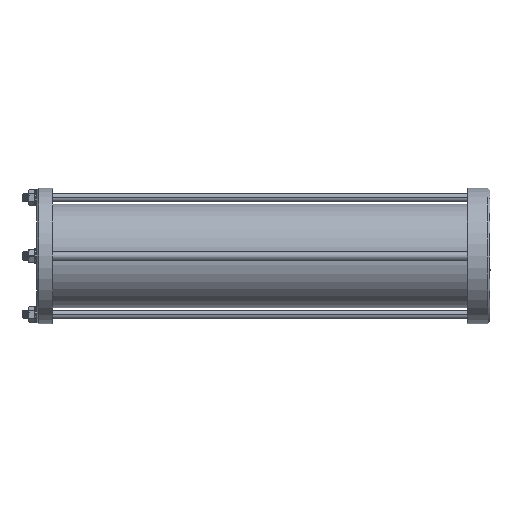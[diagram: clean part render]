
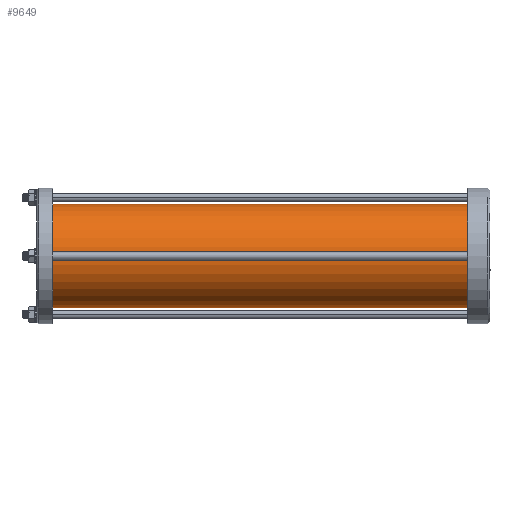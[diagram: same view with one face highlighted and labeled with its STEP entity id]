
A CAD part, left-side view. The second image highlights one B-rep face of the part: STEP entity #9649.
In plain terms, the highlighted cylindrical face has radius 38.5 mm (diameter 77 mm), a partial arc.
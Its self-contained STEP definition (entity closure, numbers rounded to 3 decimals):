
#5210 = FACE_OUTER_BOUND ( 'NONE', #59440, .T. ) ;
#6115 = CARTESIAN_POINT ( 'NONE',  ( 40.045, 341.458, 140.117 ) ) ;
#6941 = VERTEX_POINT ( 'NONE', #66312 ) ;
#9649 = ADVANCED_FACE ( 'NONE', ( #5210 ), #40937, .T. ) ;
#11994 = ORIENTED_EDGE ( 'NONE', *, *, #17799, .T. ) ;
#12818 = DIRECTION ( 'NONE',  ( 0., 1., 0. ) ) ;
#13337 = DIRECTION ( 'NONE',  ( 0., 0., 1. ) ) ;
#16139 = EDGE_CURVE ( 'NONE', #99099, #6941, #87804, .T. ) ;
#16773 = VERTEX_POINT ( 'NONE', #66929 ) ;
#17002 = EDGE_CURVE ( 'NONE', #16773, #6941, #111534, .T. ) ;
#17272 = CARTESIAN_POINT ( 'NONE',  ( 40.045, 341.458, 63.117 ) ) ;
#17799 = EDGE_CURVE ( 'NONE', #51573, #16773, #28661, .T. ) ;
#20135 = CARTESIAN_POINT ( 'NONE',  ( 40.045, 341.458, 101.617 ) ) ;
#28661 = LINE ( 'NONE', #63305, #70477 ) ;
#31827 = CIRCLE ( 'NONE', #95541, 38.5 ) ;
#36713 = AXIS2_PLACEMENT_3D ( 'NONE', #91952, #12818, #56775 ) ;
#40937 = CYLINDRICAL_SURFACE ( 'NONE', #48294, 38.5 ) ;
#45129 = DIRECTION ( 'NONE',  ( 0., -1., 0. ) ) ;
#48294 = AXIS2_PLACEMENT_3D ( 'NONE', #20135, #90525, #106920 ) ;
#51476 = VECTOR ( 'NONE', #86083, 1000. ) ;
#51573 = VERTEX_POINT ( 'NONE', #17272 ) ;
#56775 = DIRECTION ( 'NONE',  ( 0., 0., 1. ) ) ;
#59440 = EDGE_LOOP ( 'NONE', ( #110888, #81479, #11994, #78962 ) ) ;
#63305 = CARTESIAN_POINT ( 'NONE',  ( 40.045, 341.458, 63.117 ) ) ;
#66312 = CARTESIAN_POINT ( 'NONE',  ( 40.045, 23.458, 140.117 ) ) ;
#66929 = CARTESIAN_POINT ( 'NONE',  ( 40.045, 23.458, 63.117 ) ) ;
#70477 = VECTOR ( 'NONE', #45129, 1000. ) ;
#73770 = DIRECTION ( 'NONE',  ( 0., 1., 0. ) ) ;
#74931 = CARTESIAN_POINT ( 'NONE',  ( 40.045, 341.458, 101.617 ) ) ;
#78962 = ORIENTED_EDGE ( 'NONE', *, *, #17002, .T. ) ;
#81479 = ORIENTED_EDGE ( 'NONE', *, *, #84226, .F. ) ;
#84226 = EDGE_CURVE ( 'NONE', #51573, #99099, #31827, .T. ) ;
#86083 = DIRECTION ( 'NONE',  ( 0., -1., 0. ) ) ;
#87804 = LINE ( 'NONE', #96597, #51476 ) ;
#90525 = DIRECTION ( 'NONE',  ( 0., -1., 0. ) ) ;
#91952 = CARTESIAN_POINT ( 'NONE',  ( 40.045, 23.458, 101.617 ) ) ;
#95541 = AXIS2_PLACEMENT_3D ( 'NONE', #74931, #73770, #13337 ) ;
#96597 = CARTESIAN_POINT ( 'NONE',  ( 40.045, 341.458, 140.117 ) ) ;
#99099 = VERTEX_POINT ( 'NONE', #6115 ) ;
#106920 = DIRECTION ( 'NONE',  ( 0., 0., -1. ) ) ;
#110888 = ORIENTED_EDGE ( 'NONE', *, *, #16139, .F. ) ;
#111534 = CIRCLE ( 'NONE', #36713, 38.5 ) ;
